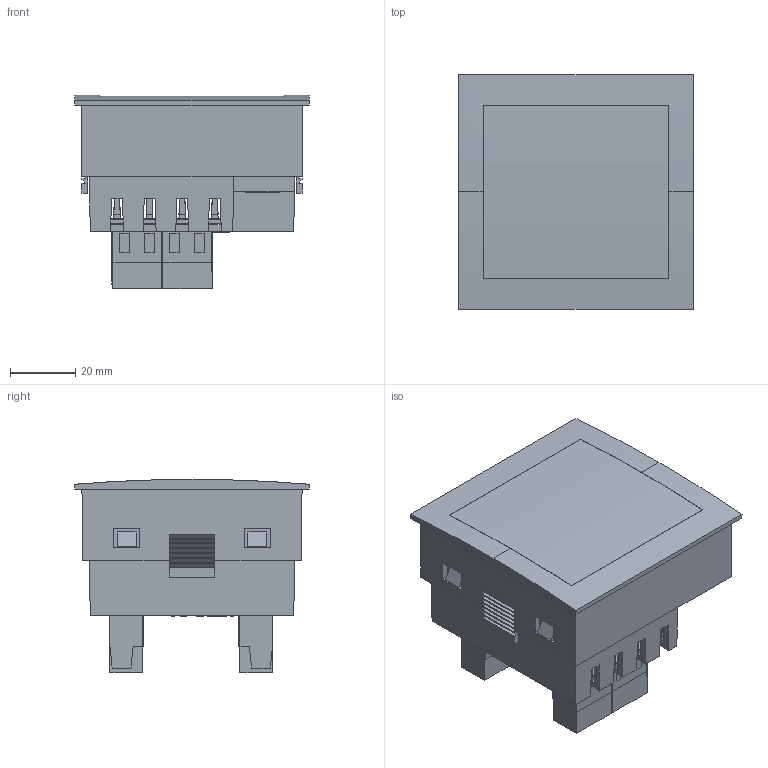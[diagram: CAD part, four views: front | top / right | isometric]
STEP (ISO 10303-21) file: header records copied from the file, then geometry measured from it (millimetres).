
FILE_DESCRIPTION (( 'STEP AP214' ), '1' );
FILE_NAME ('PML Solid 2.STEP', '2022-07-05T13:05:47', ( '' ), ( '' ), 'SwSTEP 2.0', 'SolidWorks 2019', '' );
FILE_SCHEMA (( 'AUTOMOTIVE_DESIGN' ));
Length unit declared in the file: millimetre
Products named in the file (1): PML Solid 2
Bounding box: 72 x 72 x 59.25 mm (x, y, z)
Topology: 0 solids, 31 shells, 526 faces, 2297 edges, 1778 vertices
Faces by surface type: plane 465, cylinder 44, bspline 11, sphere 3, cone 3
Entity records: 25235 total; most frequent: CARTESIAN_POINT 8216, ORIENTED_EDGE 3394, DIRECTION 2722, EDGE_CURVE 2290, VERTEX_POINT 1776, VECTOR 1600, LINE 1600, B_SPLINE_CURVE_WITH_KNOTS 643
